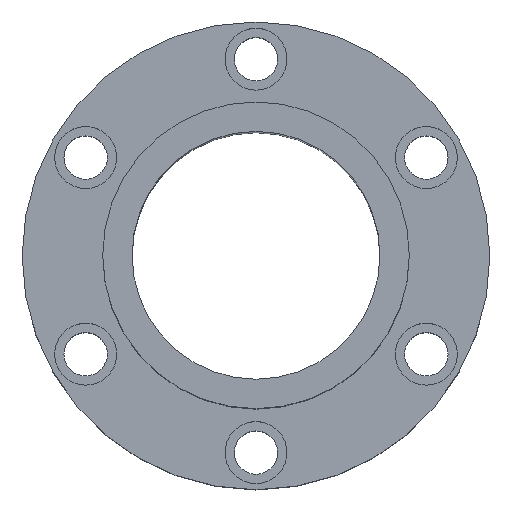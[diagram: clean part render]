
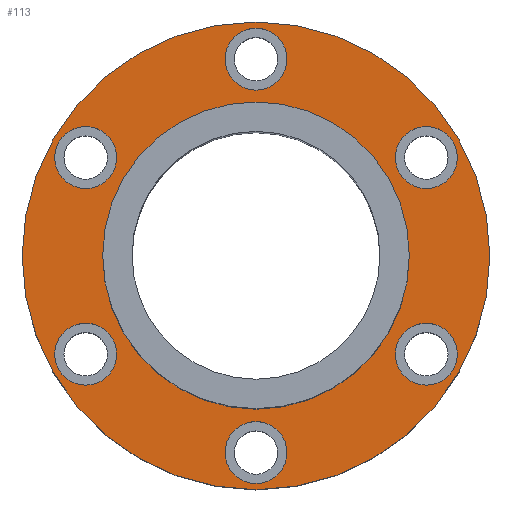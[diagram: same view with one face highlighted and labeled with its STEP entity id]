
A CAD part, top view. The second image highlights one B-rep face of the part: STEP entity #113.
In plain terms, the highlighted planar face has unit normal (0, 0, 1).
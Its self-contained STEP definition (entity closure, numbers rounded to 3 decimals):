
#113=ADVANCED_FACE('',(#159,#160,#161,#149,#162,#163,#164,#165),#139,.T.);
#139=PLANE('',#446);
#149=FACE_OUTER_BOUND('',#216,.T.);
#159=FACE_BOUND('',#213,.T.);
#160=FACE_BOUND('',#214,.T.);
#161=FACE_BOUND('',#215,.T.);
#162=FACE_BOUND('',#217,.T.);
#163=FACE_BOUND('',#218,.T.);
#164=FACE_BOUND('',#219,.T.);
#165=FACE_BOUND('',#220,.T.);
#213=EDGE_LOOP('',(#277));
#214=EDGE_LOOP('',(#278));
#215=EDGE_LOOP('',(#279));
#216=EDGE_LOOP('',(#280));
#217=EDGE_LOOP('',(#281));
#218=EDGE_LOOP('',(#282));
#219=EDGE_LOOP('',(#283));
#220=EDGE_LOOP('',(#284));
#277=ORIENTED_EDGE('',*,*,#373,.F.);
#278=ORIENTED_EDGE('',*,*,#374,.F.);
#279=ORIENTED_EDGE('',*,*,#375,.F.);
#280=ORIENTED_EDGE('',*,*,#376,.T.);
#281=ORIENTED_EDGE('',*,*,#377,.F.);
#282=ORIENTED_EDGE('',*,*,#378,.F.);
#283=ORIENTED_EDGE('',*,*,#379,.F.);
#284=ORIENTED_EDGE('',*,*,#380,.F.);
#341=VERTEX_POINT('',#616);
#342=VERTEX_POINT('',#618);
#343=VERTEX_POINT('',#620);
#344=VERTEX_POINT('',#622);
#345=VERTEX_POINT('',#624);
#346=VERTEX_POINT('',#626);
#347=VERTEX_POINT('',#628);
#348=VERTEX_POINT('',#630);
#373=EDGE_CURVE('',#341,#341,#405,.T.);
#374=EDGE_CURVE('',#342,#342,#406,.T.);
#375=EDGE_CURVE('',#343,#343,#407,.T.);
#376=EDGE_CURVE('',#344,#344,#408,.T.);
#377=EDGE_CURVE('',#345,#345,#409,.T.);
#378=EDGE_CURVE('',#346,#346,#410,.T.);
#379=EDGE_CURVE('',#347,#347,#411,.T.);
#380=EDGE_CURVE('',#348,#348,#412,.T.);
#405=CIRCLE('',#438,10.);
#406=CIRCLE('',#439,10.);
#407=CIRCLE('',#440,10.);
#408=CIRCLE('',#441,75.5);
#409=CIRCLE('',#442,49.5);
#410=CIRCLE('',#443,10.);
#411=CIRCLE('',#444,10.);
#412=CIRCLE('',#445,10.);
#438=AXIS2_PLACEMENT_3D('',#615,#498,#499);
#439=AXIS2_PLACEMENT_3D('',#617,#500,#501);
#440=AXIS2_PLACEMENT_3D('',#619,#502,#503);
#441=AXIS2_PLACEMENT_3D('',#621,#504,#505);
#442=AXIS2_PLACEMENT_3D('',#623,#506,#507);
#443=AXIS2_PLACEMENT_3D('',#625,#508,#509);
#444=AXIS2_PLACEMENT_3D('',#627,#510,#511);
#445=AXIS2_PLACEMENT_3D('',#629,#512,#513);
#446=AXIS2_PLACEMENT_3D('',#631,#514,#515);
#498=DIRECTION('',(0.,0.,1.));
#499=DIRECTION('',(-0.5,-0.866,0.));
#500=DIRECTION('',(0.,0.,1.));
#501=DIRECTION('',(-0.5,0.866,0.));
#502=DIRECTION('',(0.,0.,1.));
#503=DIRECTION('',(1.,0.,0.));
#504=DIRECTION('',(0.,0.,1.));
#505=DIRECTION('',(1.,0.,0.));
#506=DIRECTION('',(0.,0.,1.));
#507=DIRECTION('',(1.,0.,0.));
#508=DIRECTION('',(0.,0.,1.));
#509=DIRECTION('',(0.5,0.866,0.));
#510=DIRECTION('',(0.,0.,1.));
#511=DIRECTION('',(-1.,0.,0.));
#512=DIRECTION('',(0.,0.,1.));
#513=DIRECTION('',(0.5,-0.866,0.));
#514=DIRECTION('',(0.,0.,1.));
#515=DIRECTION('',(1.,0.,0.));
#615=CARTESIAN_POINT('',(54.993,-31.75,26.5));
#616=CARTESIAN_POINT('',(49.993,-40.41,26.5));
#617=CARTESIAN_POINT('',(-54.993,-31.75,26.5));
#618=CARTESIAN_POINT('',(-59.993,-23.09,26.5));
#619=CARTESIAN_POINT('',(0.,63.5,26.5));
#620=CARTESIAN_POINT('',(10.,63.5,26.5));
#621=CARTESIAN_POINT('',(0.,0.,26.5));
#622=CARTESIAN_POINT('',(75.5,0.,26.5));
#623=CARTESIAN_POINT('',(0.,0.,26.5));
#624=CARTESIAN_POINT('',(49.5,0.,26.5));
#625=CARTESIAN_POINT('',(-54.993,31.75,26.5));
#626=CARTESIAN_POINT('',(-49.993,40.41,26.5));
#627=CARTESIAN_POINT('',(0.,-63.5,26.5));
#628=CARTESIAN_POINT('',(-10.,-63.5,26.5));
#629=CARTESIAN_POINT('',(54.993,31.75,26.5));
#630=CARTESIAN_POINT('',(59.993,23.09,26.5));
#631=CARTESIAN_POINT('',(0.,0.,26.5));
